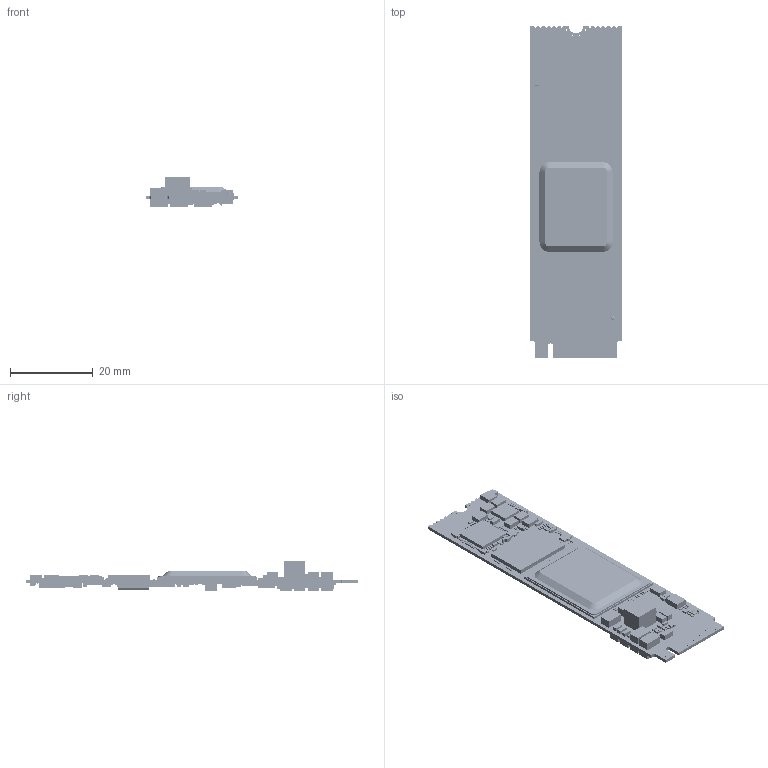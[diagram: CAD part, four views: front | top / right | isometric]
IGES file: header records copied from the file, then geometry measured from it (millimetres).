
Global section: file name: M2_2280_board_without_FAN_CON.igs; native system: NX V2406; preprocessor: SIEMENS PLM Software NX2406.5001; date: 20250219.091634; units: millimetre
Bounding box: 22 x 80.02 x 7.2 mm (x, y, z)
Surface area: 11791 mm2 (no closed solid volume)
Topology: 0 solids, 0 shells, 7406 faces, 32490 edges, 29746 vertices
Faces by surface type: bspline 7406
